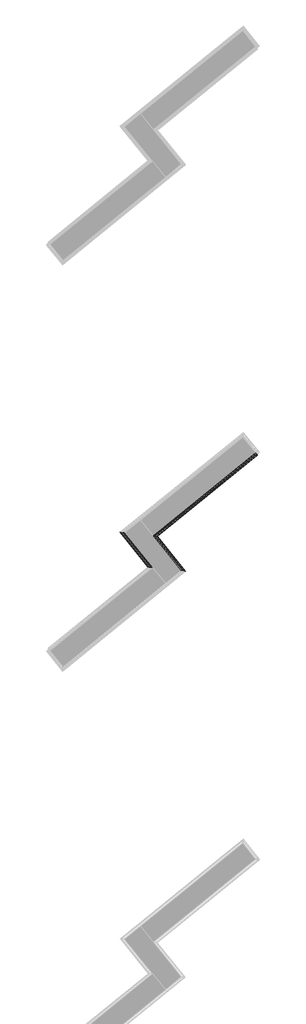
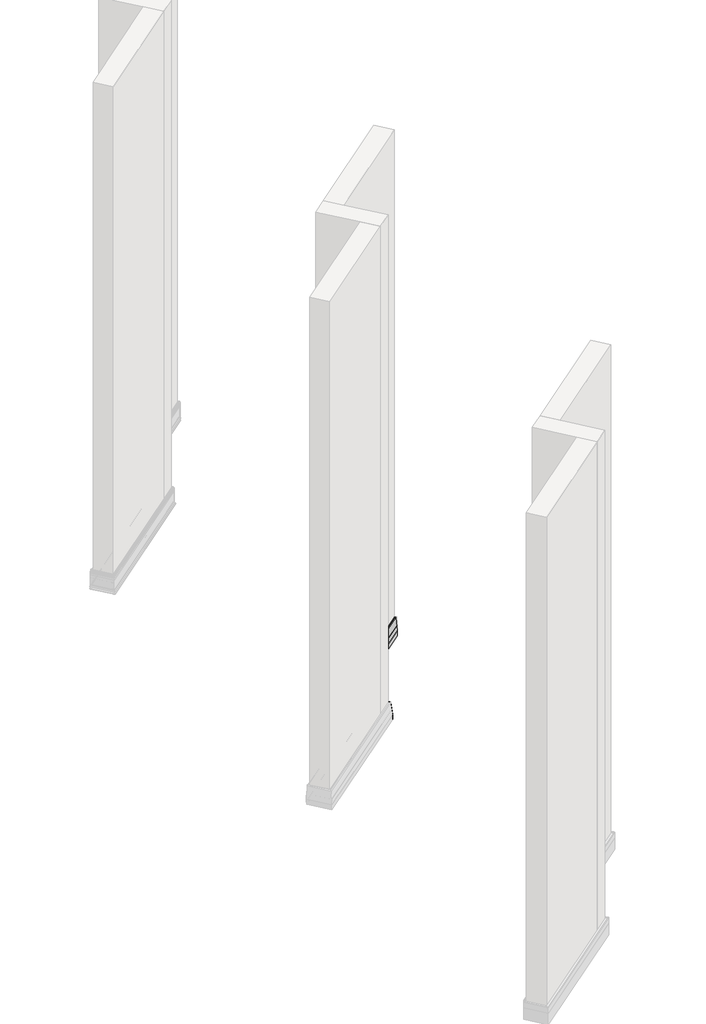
# One storey, part 15 of 21: 3 proxies.
"""IFC4 building model written with IfcOpenShell, lengths in millimetres."""

from ifc_helpers import new_model, si_unit, point, frame, frame_2d, origin, place, context, project, spatial, polyline, circle_curve, ellipse_curve, trimmed, segment, composite_curve, outline, extrude, element, save
from ifc_brep_helpers import plane_surface, cylinder_surface, revolved_surface, advanced_brep

model = new_model("IFC4")

# Units and contexts
model_context = context("Model", 3, world=origin())
ifc_project = project(units=[si_unit("LENGTHUNIT", "METRE", prefix="MILLI")], contexts=[model_context])

# Site, building, storey
site = spatial("IfcSite", under=ifc_project)
building = spatial("IfcBuilding", under=site)
storey = spatial("IfcBuildingStorey", under=building, Name="Izofleks 2D View", Elevation=0.0)

# Proxies
placement = place(None, origin())
element("IfcBuildingElementProxy", 1, Name="Wall Sweeps", at=placement, inside=storey, context=model_context, shape_type="SweptSolid", body=[
    extrude(outline(composite_curve([segment(polyline([(7.7852639, -164.7374532), (5.0964862, -164.7374532)]), True, "CONTINUOUS"), segment(trimmed(circle_curve(frame_2d((5.1124676, -163.5493822)), 1.1881785), [point((5.0964862, -164.7374532))], [point((4.2126251, -164.325302))], False, "CARTESIAN"), True, "CONTINUOUS"), segment(polyline([(4.2126251, -164.325302), (2.301783, -154.0316366)]), True, "CONTINUOUS"), segment(trimmed(circle_curve(frame_2d((2.7941472, -153.9445532)), 0.500006), [point((2.301783, -154.0316366))], [point((2.7965967, -153.4445532))], False, "CARTESIAN"), True, "CONTINUOUS"), segment(polyline([(2.7965967, -153.4445532), (3.6164397, -153.4445532), (4.2917659, -152.9716847), (1.29999, -152.9716847), (1.29999, -159.0818847)]), True, "CONTINUOUS"), segment(trimmed(circle_curve(frame_2d((0.2491905, -159.0608429)), 1.0510102), [point((1.29999, -159.0818847))], [point((0.0, -160.0818847))], False, "CARTESIAN"), True, "CONTINUOUS"), segment(polyline([(0.0, -160.0818847), (0.0, -105.0818947), (1.29999, -105.0818947), (1.29999, -122.0818847), (6.2996999, -122.0818847)]), True, "CONTINUOUS"), segment(trimmed(circle_curve(frame_2d((6.1786476, -122.7318897)), 0.6611809), [point((6.2996999, -122.0818847))], [point((6.2953783, -123.3826847))], False, "CARTESIAN"), True, "CONTINUOUS"), segment(polyline([(6.2953783, -123.3826847), (4.6572599, -123.3826847), (6.6113208, -132.22188)]), True, "CONTINUOUS"), segment(trimmed(circle_curve(frame_2d((6.1231073, -132.3298082)), 0.500001), [point((6.6113208, -132.22188))], [point((6.1241073, -132.8298082))], False, "CARTESIAN"), True, "CONTINUOUS"), segment(polyline([(6.1241073, -132.8298082), (5.1547151, -132.8298082), (5.3463779, -133.8476485), (14.6476603, -133.8476485), (14.6476603, -109.5732815), (11.6316133, -109.5732815), (11.6316133, -105.2732815), (12.9316133, -105.2732815), (12.9316133, -108.2732815), (15.929235, -108.2732815), (15.929235, -136.6002478)]), True, "CONTINUOUS"), segment(trimmed(circle_curve(frame_2d((-323.5544819, -136.7860962)), 339.4837679), [point((15.929235, -136.6002478))], [point((8.6021535, -206.9373483))], False, "CARTESIAN"), True, "CONTINUOUS"), segment(trimmed(circle_curve(frame_2d((4.7411505, -206.106502)), 3.949386), [point((8.6021535, -206.9373483))], [point((5.0902419, -210.0404295))], False, "CARTESIAN"), True, "CONTINUOUS"), segment(polyline([(5.0902419, -210.0404295), (1.9316133, -210.0404295), (1.9316133, -208.0405066), (-0.0683867, -208.0405066), (-0.0683867, -206.7405066), (3.2316133, -206.7405066), (3.2316133, -208.7407399), (4.960022, -208.7407399)]), True, "CONTINUOUS"), segment(trimmed(circle_curve(frame_2d((5.0109276, -206.4118222)), 2.329474), [point((4.960022, -208.7407399))], [point((7.2444894, -207.0733738))], True, "CARTESIAN"), True, "CONTINUOUS"), segment(trimmed(circle_curve(frame_2d((-323.5544819, -136.7860962)), 338.1837679), [point((7.2444894, -207.0733738))], [point((13.4721972, -164.7374532))], True, "CARTESIAN"), True, "CONTINUOUS"), segment(polyline([(13.4721972, -164.7374532), (7.7852639, -164.7374532)]), True, "CONTINUOUS")], self_intersect=False)), frame((10088.0380278, -5173.6542987, -105.0818947), z_axis=(0.7771459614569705, 0.6293203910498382, 0.0), x_axis=(0.6293203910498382, -0.7771459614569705, 0.0)), (0.0, 0.0, 1.0), 650.0),
])
element("IfcBuildingElementProxy", 2, Name="Wall Sweeps", at=placement, inside=storey, context=model_context, shape_type="AdvancedBrep", body=[
    advanced_brep(
    [(10098.9877396, -5174.8051598, 59.6555585), (10106.98622, -5175.645834, 59.6555585), (10098.2271584, -5174.7252195, 101.9914791), (10095.0141318, -5174.3875168, 103.6588452), (10092.5831831, -5174.1320138, 103.6588452), (10092.5831831, -5174.1320138, 101.6586119), (10087.9418442, -5173.6441894, 101.6586119), (10087.9418442, -5173.6441894, 102.9586119), (10090.7547769, -5173.9398405, 102.9586119), (10090.7547769, -5173.9398405, 104.9585348), (10095.1972818, -5174.4067666, 104.9585348), (10100.1366673, -5174.925917, 101.8554536), (10110.441961, -5176.009047, 31.5183531), (10110.441961, -5176.009047, 3.1913868), (10106.2259067, -5175.5659218, 3.1913868), (10106.2259067, -5175.5659218, 0.1913868), (10104.3975005, -5175.3737486, 0.1913868), (10104.3975005, -5175.3737486, 4.4913868), (10108.6394691, -5175.8195974, 4.4913868), (10108.6394691, -5175.8195974, 28.7657538), (10095.5575285, -5174.4446301, 28.7657538), (10095.2879611, -5174.4162974, 27.7479135), (10096.6513787, -5174.5595984, 27.7479135), (10097.3366282, -5174.631621, 27.1399853), (10094.5883072, -5174.3427608, 18.30079), (10096.8922655, -5174.5849166, 18.30079), (10096.8983438, -5174.5855554, 16.99999), (10089.8664199, -5173.8464705, 16.99999), (10089.8664199, -5173.8464705, 0.0), (10088.0380278, -5173.6542987, 0.0), (10088.0380278, -5173.6542987, 54.99999), (10089.8664199, -5173.8464705, 53.99999), (10089.8664199, -5173.8464705, 47.88979), (10094.0742521, -5174.2887314, 47.88979), (10093.1244286, -5174.188901, 48.3626585), (10091.971347, -5174.0677072, 48.3626585), (10091.2754082, -5173.9945611, 48.9497419), (10093.9629433, -5174.2770324, 59.2434073), (10095.2060641, -5174.4076897, 59.6555585), (10237.4382256, -5345.7772713, 59.6555585), (10233.6565501, -5345.3798012, 59.6555585), (10232.4134293, -5345.2491439, 59.2434073), (10229.7258942, -5344.9666726, 48.9497419), (10230.421833, -5345.0398187, 48.3626585), (10231.5749146, -5345.1610125, 48.3626585), (10232.5247381, -5345.260843, 47.88979), (10228.316906, -5344.818582, 47.88979), (10228.316906, -5344.818582, 53.99999), (10226.4885138, -5344.6264102, 54.99999), (10226.4885138, -5344.6264102, 0.0), (10228.316906, -5344.818582, 0.0), (10228.316906, -5344.818582, 16.99999), (10235.3488299, -5345.557667, 16.99999), (10235.3427515, -5345.5570281, 18.30079), (10233.0387933, -5345.3148723, 18.30079), (10235.7871142, -5345.6037325, 27.1399853), (10235.1018647, -5345.5317099, 27.7479135), (10233.7384472, -5345.3884089, 27.7479135), (10234.0080145, -5345.4167416, 28.7657538), (10247.0899552, -5346.791709, 28.7657538), (10247.0899552, -5346.791709, 4.4913868), (10242.8479865, -5346.3458601, 4.4913868), (10242.8479865, -5346.3458601, 0.1913868), (10244.6763928, -5346.5380333, 0.1913868), (10244.6763928, -5346.5380333, 3.1913868), (10248.892447, -5346.9811585, 3.1913868), (10248.892447, -5346.9811585, 31.5183531), (10238.5871533, -5345.8980285, 101.8554536), (10233.6477678, -5345.3788781, 104.9585348), (10229.2052629, -5344.9119521, 104.9585348), (10229.2052629, -5344.9119521, 102.9586119), (10226.3923302, -5344.6163009, 102.9586119), (10226.3923302, -5344.6163009, 101.6586119), (10231.0336692, -5345.1041253, 101.6586119), (10231.0336692, -5345.1041253, 103.6588452), (10233.4646178, -5345.3596283, 103.6588452), (10236.6776445, -5345.697331, 101.9914791), (10245.436706, -5346.6179455, 59.6555585)],
    [
        (0, 1),
        (1, 2, ellipse_curve(frame((9632.9695358, -5125.8246729, 31.7042015), z_axis=(-0.10452846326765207, -0.9945218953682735, 0.0), x_axis=(0.9945218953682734, -0.10452846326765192, 0.0)), 478.2640711, 338.1837679)),
        (2, 3, ellipse_curve(frame((10095.0857289, -5174.3950419, 101.3299275), z_axis=(-0.10452846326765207, -0.9945218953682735, 0.0), x_axis=(0.9945218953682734, -0.10452846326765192, 0.0)), 3.2943737, 2.329474)),
        (3, 4),
        (4, 5),
        (5, 6),
        (6, 7),
        (7, 8),
        (8, 9),
        (9, 10),
        (10, 11, ellipse_curve(frame((10094.7062964, -5174.355162, 101.0246073), z_axis=(0.10452846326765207, 0.9945218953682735, 0.0), x_axis=(-0.9945218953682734, 0.10452846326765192, 0.0)), 5.5852753, 3.949386)),
        (11, 12, ellipse_curve(frame((9632.9695358, -5125.8246729, 31.7042015), z_axis=(0.10452846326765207, 0.9945218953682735, 0.0), x_axis=(-0.9945218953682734, 0.10452846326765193, 0.0)), 480.1025487, 339.4837679)),
        (12, 13),
        (13, 14),
        (14, 15),
        (15, 16),
        (16, 17),
        (17, 18),
        (18, 19),
        (19, 20),
        (20, 21),
        (21, 22),
        (22, 23, ellipse_curve(frame((10096.6499722, -5174.5594505, 27.2479135), z_axis=(0.10452846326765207, 0.9945218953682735, 0.0), x_axis=(-0.9945218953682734, 0.10452846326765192, 0.0)), 0.7071082, 0.500001)),
        (23, 24),
        (24, 25),
        (25, 26, ellipse_curve(frame((10096.7280877, -5174.5676608, 17.649995), z_axis=(0.10452846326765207, 0.9945218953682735, 0.0), x_axis=(-0.9945218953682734, 0.10452846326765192, 0.0)), 0.935051, 0.6611809)),
        (26, 27),
        (27, 28),
        (28, 29),
        (29, 30),
        (30, 31, ellipse_curve(frame((10088.3885058, -5173.6911354, 53.9789482), z_axis=(0.10452846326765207, 0.9945218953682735, 0.0), x_axis=(-0.9945218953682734, 0.10452846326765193, 0.0)), 1.4863528, 1.0510102)),
        (31, 32),
        (32, 33),
        (33, 34),
        (34, 35),
        (35, 36, ellipse_curve(frame((10091.9679018, -5174.0673451, 48.8626585), z_axis=(0.10452846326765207, 0.9945218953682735, 0.0), x_axis=(-0.9945218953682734, 0.10452846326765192, 0.0)), 0.7071153, 0.500006)),
        (36, 37),
        (37, 38, ellipse_curve(frame((10095.2285415, -5174.4100521, 58.4674875), z_axis=(0.10452846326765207, 0.9945218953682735, 0.0), x_axis=(-0.9945218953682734, 0.10452846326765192, 0.0)), 1.6803381, 1.1881785)),
        (38, 0),
        (39, 40),
        (40, 41, ellipse_curve(frame((10233.6790275, -5345.3821637, 58.4674875), z_axis=(-0.10452846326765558, -0.9945218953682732, 0.0), x_axis=(-0.9945218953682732, 0.10452846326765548, 0.0)), 1.6803381, 1.1881785)),
        (41, 42),
        (42, 43, ellipse_curve(frame((10230.4183879, -5345.0394566, 48.8626585), z_axis=(-0.10452846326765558, -0.9945218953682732, 0.0), x_axis=(-0.9945218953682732, 0.10452846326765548, 0.0)), 0.7071153, 0.500006)),
        (43, 44),
        (44, 45),
        (45, 46),
        (46, 47),
        (47, 48, ellipse_curve(frame((10226.8389918, -5344.663247, 53.9789482), z_axis=(-0.10452846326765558, -0.9945218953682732, 0.0), x_axis=(-0.9945218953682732, 0.1045284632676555, 0.0)), 1.4863528, 1.0510102)),
        (48, 49),
        (49, 50),
        (50, 51),
        (51, 52),
        (52, 53, ellipse_curve(frame((10235.1785737, -5345.5397723, 17.649995), z_axis=(-0.10452846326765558, -0.9945218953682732, 0.0), x_axis=(-0.9945218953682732, 0.10452846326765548, 0.0)), 0.935051, 0.6611809)),
        (53, 54),
        (54, 55),
        (55, 56, ellipse_curve(frame((10235.1004582, -5345.5315621, 27.2479135), z_axis=(-0.10452846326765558, -0.9945218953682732, 0.0), x_axis=(-0.9945218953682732, 0.10452846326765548, 0.0)), 0.7071082, 0.500001)),
        (56, 57),
        (57, 58),
        (58, 59),
        (59, 60),
        (60, 61),
        (61, 62),
        (62, 63),
        (63, 64),
        (64, 65),
        (65, 66),
        (66, 67, ellipse_curve(frame((9771.4200218, -5296.7967844, 31.7042015), z_axis=(-0.10452846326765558, -0.9945218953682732, 0.0), x_axis=(-0.9945218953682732, 0.1045284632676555, 0.0)), 480.1025487, 339.4837679)),
        (67, 68, ellipse_curve(frame((10233.1567825, -5345.3272735, 101.0246073), z_axis=(-0.10452846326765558, -0.9945218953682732, 0.0), x_axis=(-0.9945218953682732, 0.10452846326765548, 0.0)), 5.5852753, 3.949386)),
        (68, 69),
        (69, 70),
        (70, 71),
        (71, 72),
        (72, 73),
        (73, 74),
        (74, 75),
        (75, 76, ellipse_curve(frame((10233.5362149, -5345.3671535, 101.3299275), z_axis=(0.10452846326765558, 0.9945218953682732, 0.0), x_axis=(0.9945218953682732, -0.10452846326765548, 0.0)), 3.2943737, 2.329474)),
        (76, 77, ellipse_curve(frame((9771.4200218, -5296.7967844, 31.7042015), z_axis=(0.10452846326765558, 0.9945218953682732, 0.0), x_axis=(0.9945218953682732, -0.10452846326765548, 0.0)), 478.2640711, 338.1837679)),
        (77, 39),
        (0, 39),
        (77, 1),
        (76, 2),
        (75, 3),
        (74, 4),
        (73, 5),
        (72, 6),
        (71, 7),
        (70, 8),
        (69, 9),
        (68, 10),
        (67, 11),
        (66, 12),
        (65, 13),
        (64, 14),
        (63, 15),
        (62, 16),
        (61, 17),
        (60, 18),
        (59, 19),
        (58, 20),
        (57, 21),
        (56, 22),
        (55, 23),
        (54, 24),
        (53, 25),
        (52, 26),
        (51, 27),
        (50, 28),
        (49, 29),
        (48, 30),
        (47, 31),
        (46, 32),
        (45, 33),
        (44, 34),
        (43, 35),
        (42, 36),
        (41, 37),
        (40, 38),
    ],
    [
        plane_surface(frame((10088.0380278, -5173.6542987, -304.8), z_axis=(0.10452846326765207, 0.9945218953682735, 0.0), x_axis=(0.9945218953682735, -0.10452846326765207, 0.0))),
        plane_surface(frame((10226.4885138, -5344.6264102, 304.8), z_axis=(-0.10452846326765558, -0.9945218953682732, 0.0), x_axis=(-0.9945218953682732, 0.10452846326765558, 0.0))),
        plane_surface(frame((10098.9877396, -5174.8051598, 59.6555585), z_axis=(0.0, 0.0, 1.0), x_axis=(0.6293203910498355, -0.7771459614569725, 0.0))),
        revolved_surface(polyline([(10246.164885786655, -5347.517172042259, 59.65555380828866), (9682.062517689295, -4650.908761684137, 59.65555380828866)]), (9836.5889688, -5377.2737318, 31.7042015), (0.6293203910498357, -0.777145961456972, 0.0)),
        revolved_surface(polyline([(10236.738003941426, -5345.771868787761, 101.9914791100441), (10095.355546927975, -5171.179074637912, 101.9914791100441)]), (10091.9322499, -5170.5008198, 101.3299275), (0.629320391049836, -0.7771459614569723, 0.0)),
        plane_surface(frame((10095.0141318, -5174.3875168, 103.6588452), z_axis=(0.0, 0.0, -1.0), x_axis=(0.6293203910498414, -0.7771459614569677, 0.0))),
        plane_surface(frame((10092.5831831, -5174.1320138, 103.6588452), z_axis=(0.7771459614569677, 0.6293203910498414, 0.0), x_axis=(0.6293203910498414, -0.7771459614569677, 0.0))),
        plane_surface(frame((10092.5831831, -5174.1320138, 101.6586119), z_axis=(0.0, 0.0, -1.0), x_axis=(0.6293203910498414, -0.7771459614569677, 0.0))),
        plane_surface(frame((10087.9418442, -5173.6441894, 101.6586119), z_axis=(-0.7771459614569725, -0.6293203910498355, 0.0), x_axis=(0.6293203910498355, -0.7771459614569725, 0.0))),
        plane_surface(frame((10087.9418442, -5173.6441894, 102.9586119), z_axis=(0.0, 0.0, 1.0), x_axis=(0.6293203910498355, -0.7771459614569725, 0.0))),
        plane_surface(frame((10090.7547769, -5173.9398405, 102.9586119), z_axis=(-0.7771459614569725, -0.6293203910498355, 0.0), x_axis=(0.6293203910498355, -0.7771459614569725, 0.0))),
        plane_surface(frame((10090.7547769, -5173.9398405, 104.9585348), z_axis=(0.0, 0.0, 1.0), x_axis=(0.6293203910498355, -0.7771459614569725, 0.0))),
        cylinder_surface(frame((10091.7225937, -5170.670596, 101.0246073), z_axis=(-0.6293203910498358, 0.7771459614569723, 0.0), x_axis=(0.06869295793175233, 0.055626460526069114, 0.9960858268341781)), 3.949386),
        cylinder_surface(frame((9836.5889688, -5377.2737318, 31.7042015), z_axis=(-0.6293203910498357, 0.7771459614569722, 0.0), x_axis=(0.7603726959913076, 0.6157376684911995, 0.20664096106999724)), 339.4837679),
        plane_surface(frame((10110.441961, -5176.009047, 31.5183531), z_axis=(0.7771459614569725, 0.6293203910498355, 0.0), x_axis=(0.6293203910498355, -0.7771459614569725, 0.0))),
        plane_surface(frame((10110.441961, -5176.009047, 3.1913868), z_axis=(0.0, 0.0, -1.0), x_axis=(0.6293203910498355, -0.7771459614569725, 0.0))),
        plane_surface(frame((10106.2259067, -5175.5659218, 3.1913868), z_axis=(0.7771459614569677, 0.6293203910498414, 0.0), x_axis=(0.6293203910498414, -0.7771459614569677, 0.0))),
        plane_surface(frame((10106.2259067, -5175.5659218, 0.1913868), z_axis=(0.0, 0.0, -1.0), x_axis=(0.6293203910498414, -0.7771459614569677, 0.0))),
        plane_surface(frame((10104.3975005, -5175.3737486, 0.1913868), z_axis=(-0.7771459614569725, -0.6293203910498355, 0.0), x_axis=(0.6293203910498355, -0.7771459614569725, 0.0))),
        plane_surface(frame((10104.3975005, -5175.3737486, 4.4913868), z_axis=(0.0, 0.0, 1.0), x_axis=(0.6293203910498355, -0.7771459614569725, 0.0))),
        plane_surface(frame((10108.6394691, -5175.8195974, 4.4913868), z_axis=(-0.7771459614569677, -0.6293203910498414, 0.0), x_axis=(0.6293203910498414, -0.7771459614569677, 0.0))),
        plane_surface(frame((10108.6394691, -5175.8195974, 28.7657538), z_axis=(0.0, 0.0, -1.0), x_axis=(0.6293203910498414, -0.7771459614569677, 0.0))),
        plane_surface(frame((10095.5575285, -5174.4446301, 28.7657538), z_axis=(0.7637237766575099, 0.6184513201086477, -0.1850512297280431), x_axis=(0.6293203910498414, -0.7771459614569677, 0.0))),
        plane_surface(frame((10095.2879611, -5174.4162974, 27.7479135), z_axis=(0.0, 0.0, 1.0), x_axis=(0.6293203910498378, -0.7771459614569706, 0.0))),
        cylinder_surface(frame((10092.7965759, -5169.8009024, 27.2479135), z_axis=(-0.6293203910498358, 0.7771459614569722, 0.0), x_axis=(0.0015542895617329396, 0.0012586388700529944, 0.9999980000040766)), 0.500001),
        plane_surface(frame((10097.3366282, -5174.631621, 27.1399853), z_axis=(0.7588248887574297, 0.6144842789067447, -0.2158561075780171), x_axis=(0.6293203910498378, -0.7771459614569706, 0.0))),
        plane_surface(frame((10094.5883072, -5174.3427608, 18.30079), z_axis=(0.0, 0.0, 1.0), x_axis=(0.6293203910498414, -0.7771459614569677, 0.0))),
        cylinder_surface(frame((10092.8397388, -5169.7659498, 17.649995), z_axis=(-0.6293203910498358, 0.7771459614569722, 0.0), x_axis=(0.1422838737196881, 0.11521920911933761, 0.9830970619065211)), 0.6611809),
        plane_surface(frame((10096.8983438, -5174.5855554, 16.99999), z_axis=(0.0, 0.0, -1.0), x_axis=(0.6293203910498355, -0.7771459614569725, 0.0))),
        plane_surface(frame((10089.8664199, -5173.8464705, 16.99999), z_axis=(0.7771459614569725, 0.6293203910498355, 0.0), x_axis=(0.6293203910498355, -0.7771459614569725, 0.0))),
        plane_surface(frame((10089.8664199, -5173.8464705, 0.0), z_axis=(0.0, 0.0, -1.0), x_axis=(0.6293203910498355, -0.7771459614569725, 0.0))),
        plane_surface(frame((10088.0380278, -5173.6542987, 0.0), z_axis=(-0.7771459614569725, -0.6293203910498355, 0.0), x_axis=(0.6293203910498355, -0.7771459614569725, 0.0))),
        cylinder_surface(frame((10088.2316851, -5173.497478, 53.9789482), z_axis=(-0.6293203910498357, 0.7771459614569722, 0.0), x_axis=(-0.18425834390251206, -0.14920946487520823, 0.9714861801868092)), 1.0510102),
        plane_surface(frame((10089.8664199, -5173.8464705, 53.99999), z_axis=(0.7771459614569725, 0.6293203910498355, 0.0), x_axis=(0.6293203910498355, -0.7771459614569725, 0.0))),
        plane_surface(frame((10089.8664199, -5173.8464705, 47.88979), z_axis=(0.0, 0.0, 1.0), x_axis=(0.6293203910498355, -0.7771459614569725, 0.0))),
        plane_surface(frame((10094.0742521, -5174.2887314, 47.88979), z_axis=(-0.4457526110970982, -0.36096334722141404, -0.8191520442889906), x_axis=(0.6293203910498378, -0.7771459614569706, 0.0))),
        plane_surface(frame((10093.1244286, -5174.188901, 48.3626585), z_axis=(0.0, 0.0, -1.0), x_axis=(0.6293203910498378, -0.7771459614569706, 0.0))),
        cylinder_surface(frame((10090.209488, -5171.8958849, 48.8626585), z_axis=(-0.629320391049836, 0.7771459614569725, 0.0), x_axis=(0.003807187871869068, 0.003082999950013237, -0.9999880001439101)), 0.500006),
        plane_surface(frame((10091.2754082, -5173.9945611, 48.9497419), z_axis=(-0.7640923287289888, -0.6187497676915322, 0.1825147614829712), x_axis=(0.6293203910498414, -0.7771459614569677, 0.0))),
        cylinder_surface(frame((10092.0111613, -5170.4369186, 58.4674875), z_axis=(-0.6293203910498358, 0.7771459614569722, 0.0), x_axis=(0.7771459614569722, 0.6293203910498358, 0.0)), 1.1881785),
        plane_surface(frame((10095.2060641, -5174.4076897, 59.6555585), z_axis=(0.0, 0.0, 1.0), x_axis=(0.6293203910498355, -0.7771459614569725, 0.0))),
    ],
    [
        (0, [[1, 2, 3, 4, 5, 6, 7, 8, 9, 10, 11, 12, 13, 14, 15, 16, 17, 18, 19, 20, 21, 22, 23, 24, 25, 26, 27, 28, 29, 30, 31, 32, 33, 34, 35, 36, 37, 38, 39]]),
        (1, [[40, 41, 42, 43, 44, 45, 46, 47, 48, 49, 50, 51, 52, 53, 54, 55, 56, 57, 58, 59, 60, 61, 62, 63, 64, 65, 66, 67, 68, 69, 70, 71, 72, 73, 74, 75, 76, 77, 78]]),
        (2, [[-1, 79, -78, 80]]),
        (3, [[-2, -80, -77, 81]]),
        (4, [[-3, -81, -76, 82]]),
        (5, [[-4, -82, -75, 83]]),
        (6, [[-5, -83, -74, 84]]),
        (7, [[-6, -84, -73, 85]]),
        (8, [[-7, -85, -72, 86]]),
        (9, [[-8, -86, -71, 87]]),
        (10, [[-9, -87, -70, 88]]),
        (11, [[-10, -88, -69, 89]]),
        (12, [[-11, -89, -68, 90]]),
        (13, [[-12, -90, -67, 91]]),
        (14, [[-13, -91, -66, 92]]),
        (15, [[-14, -92, -65, 93]]),
        (16, [[-15, -93, -64, 94]]),
        (17, [[-16, -94, -63, 95]]),
        (18, [[-17, -95, -62, 96]]),
        (19, [[-18, -96, -61, 97]]),
        (20, [[-19, -97, -60, 98]]),
        (21, [[-20, -98, -59, 99]]),
        (22, [[-21, -99, -58, 100]]),
        (23, [[-22, -100, -57, 101]]),
        (24, [[-23, -101, -56, 102]]),
        (25, [[-24, -102, -55, 103]]),
        (26, [[-25, -103, -54, 104]]),
        (27, [[-26, -104, -53, 105]]),
        (28, [[-27, -105, -52, 106]]),
        (29, [[-28, -106, -51, 107]]),
        (30, [[-29, -107, -50, 108]]),
        (31, [[-30, -108, -49, 109]]),
        (32, [[-31, -109, -48, 110]]),
        (33, [[-32, -110, -47, 111]]),
        (34, [[-33, -111, -46, 112]]),
        (35, [[-34, -112, -45, 113]]),
        (36, [[-35, -113, -44, 114]]),
        (37, [[-36, -114, -43, 115]]),
        (38, [[-37, -115, -42, 116]]),
        (39, [[-38, -116, -41, 117]]),
        (40, [[-39, -117, -40, -79]]),
    ],
),
])
element("IfcBuildingElementProxy", 3, Name="Wall Sweeps", at=placement, inside=storey, context=model_context, shape_type="AdvancedBrep", body=[
    advanced_brep(
    [(9936.4416807, -5157.7208806, 59.6555585), (9940.2233562, -5158.1183507, 59.6555585), (9941.466477, -5158.2490079, 59.2434073), (9944.1540121, -5158.5314793, 48.9497419), (9943.4580733, -5158.4583332, 48.3626585), (9942.3049916, -5158.3371394, 48.3626585), (9941.3551682, -5158.2373089, 47.88979), (9945.5630003, -5158.6795699, 47.88979), (9945.5630003, -5158.6795699, 53.99999), (9947.3913925, -5158.8717417, 54.99999), (9947.3913925, -5158.8717417, 0.0), (9945.5630003, -5158.6795699, 0.0), (9945.5630003, -5158.6795699, 16.99999), (9938.5310764, -5157.9404849, 16.99999), (9938.5371548, -5157.9411238, 18.30079), (9940.841113, -5158.1832795, 18.30079), (9938.0927921, -5157.8944194, 27.1399853), (9938.7780416, -5157.966442, 27.7479135), (9940.1414591, -5158.109743, 27.7479135), (9939.8718918, -5158.0814103, 28.7657538), (9926.7899511, -5156.7064429, 28.7657538), (9926.7899511, -5156.7064429, 4.4913868), (9931.0319198, -5157.1522918, 4.4913868), (9931.0319198, -5157.1522918, 0.1913868), (9929.2035135, -5156.9601185, 0.1913868), (9929.2035135, -5156.9601185, 3.1913868), (9924.9874593, -5156.5169934, 3.1913868), (9924.9874593, -5156.5169934, 31.5183531), (9935.2927529, -5157.6001234, 101.8554536), (9940.2321385, -5158.1192737, 104.9585348), (9944.6746434, -5158.5861998, 104.9585348), (9944.6746434, -5158.5861998, 102.9586119), (9947.4875761, -5158.881851, 102.9586119), (9947.4875761, -5158.881851, 101.6586119), (9942.8462371, -5158.3940266, 101.6586119), (9942.8462371, -5158.3940266, 103.6588452), (9940.4152885, -5158.1385236, 103.6588452), (9937.2022618, -5157.8008209, 101.9914791), (9928.4432003, -5156.8802064, 59.6555585), (10074.8921667, -5328.6929921, 59.6555585), (10066.8936863, -5327.8523179, 59.6555585), (10075.6527478, -5328.7729324, 101.9914791), (10078.8657745, -5329.1106351, 103.6588452), (10081.2967232, -5329.3661381, 103.6588452), (10081.2967232, -5329.3661381, 101.6586119), (10085.9380621, -5329.8539625, 101.6586119), (10085.9380621, -5329.8539625, 102.9586119), (10083.1251294, -5329.5583113, 102.9586119), (10083.1251294, -5329.5583113, 104.9585348), (10078.6826245, -5329.0913853, 104.9585348), (10073.743239, -5328.5722349, 101.8554536), (10063.4379453, -5327.4891049, 31.5183531), (10063.4379453, -5327.4891049, 3.1913868), (10067.6539995, -5327.9322301, 3.1913868), (10067.6539995, -5327.9322301, 0.1913868), (10069.4824058, -5328.1244033, 0.1913868), (10069.4824058, -5328.1244033, 4.4913868), (10065.2404372, -5327.6785544, 4.4913868), (10065.2404372, -5327.6785544, 28.7657538), (10078.3223778, -5329.0535218, 28.7657538), (10078.5919451, -5329.0818545, 27.7479135), (10077.2285276, -5328.9385535, 27.7479135), (10076.5432781, -5328.8665309, 27.1399853), (10079.291599, -5329.1553911, 18.30079), (10076.9876408, -5328.9132353, 18.30079), (10076.9815625, -5328.9125964, 16.99999), (10084.0134863, -5329.6516814, 16.99999), (10084.0134863, -5329.6516814, 0.0), (10085.8418785, -5329.8438532, 0.0), (10085.8418785, -5329.8438532, 54.99999), (10084.0134863, -5329.6516814, 53.99999), (10084.0134863, -5329.6516814, 47.88979), (10079.8056542, -5329.2094204, 47.88979), (10080.7554777, -5329.3092509, 48.3626585), (10081.9085593, -5329.4304447, 48.3626585), (10082.6044981, -5329.5035908, 48.9497419), (10079.916963, -5329.2211195, 59.2434073), (10078.6738422, -5329.0904622, 59.6555585)],
    [
        (0, 1),
        (1, 2, ellipse_curve(frame((9940.2008788, -5158.1159882, 58.4674875), z_axis=(0.10452846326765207, 0.9945218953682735, 0.0), x_axis=(-0.9945218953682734, 0.10452846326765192, 0.0)), 1.6803381, 1.1881785)),
        (2, 3),
        (3, 4, ellipse_curve(frame((9943.4615184, -5158.4586953, 48.8626585), z_axis=(0.10452846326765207, 0.9945218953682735, 0.0), x_axis=(-0.9945218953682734, 0.10452846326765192, 0.0)), 0.7071153, 0.500006)),
        (4, 5),
        (5, 6),
        (6, 7),
        (7, 8),
        (8, 9, ellipse_curve(frame((9947.0409144, -5158.8349049, 53.9789482), z_axis=(0.10452846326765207, 0.9945218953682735, 0.0), x_axis=(-0.9945218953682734, 0.10452846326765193, 0.0)), 1.4863528, 1.0510102)),
        (9, 10),
        (10, 11),
        (11, 12),
        (12, 13),
        (13, 14, ellipse_curve(frame((9938.7013325, -5157.9583796, 17.649995), z_axis=(0.10452846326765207, 0.9945218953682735, 0.0), x_axis=(-0.9945218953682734, 0.10452846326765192, 0.0)), 0.935051, 0.6611809)),
        (14, 15),
        (15, 16),
        (16, 17, ellipse_curve(frame((9938.7794481, -5157.9665898, 27.2479135), z_axis=(0.10452846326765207, 0.9945218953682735, 0.0), x_axis=(-0.9945218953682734, 0.10452846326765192, 0.0)), 0.7071082, 0.500001)),
        (17, 18),
        (18, 19),
        (19, 20),
        (20, 21),
        (21, 22),
        (22, 23),
        (23, 24),
        (24, 25),
        (25, 26),
        (26, 27),
        (27, 28, ellipse_curve(frame((10402.4598845, -5206.7013675, 31.7042015), z_axis=(0.10452846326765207, 0.9945218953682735, 0.0), x_axis=(-0.9945218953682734, 0.10452846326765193, 0.0)), 480.1025487, 339.4837679)),
        (28, 29, ellipse_curve(frame((9940.7231238, -5158.1708784, 101.0246073), z_axis=(0.10452846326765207, 0.9945218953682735, 0.0), x_axis=(-0.9945218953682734, 0.10452846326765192, 0.0)), 5.5852753, 3.949386)),
        (29, 30),
        (30, 31),
        (31, 32),
        (32, 33),
        (33, 34),
        (34, 35),
        (35, 36),
        (36, 37, ellipse_curve(frame((9940.3436914, -5158.1309984, 101.3299275), z_axis=(-0.10452846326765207, -0.9945218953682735, 0.0), x_axis=(0.9945218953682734, -0.10452846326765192, 0.0)), 3.2943737, 2.329474)),
        (37, 38, ellipse_curve(frame((10402.4598845, -5206.7013675, 31.7042015), z_axis=(-0.10452846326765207, -0.9945218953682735, 0.0), x_axis=(0.9945218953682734, -0.10452846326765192, 0.0)), 478.2640711, 338.1837679)),
        (38, 0),
        (39, 40),
        (40, 41, ellipse_curve(frame((10540.9103705, -5377.673479, 31.7042015), z_axis=(0.10452846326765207, 0.9945218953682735, 0.0), x_axis=(0.9945218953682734, -0.10452846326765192, 0.0)), 478.2640711, 338.1837679)),
        (41, 42, ellipse_curve(frame((10078.7941774, -5329.1031099, 101.3299275), z_axis=(0.10452846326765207, 0.9945218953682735, 0.0), x_axis=(0.9945218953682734, -0.10452846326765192, 0.0)), 3.2943737, 2.329474)),
        (42, 43),
        (43, 44),
        (44, 45),
        (45, 46),
        (46, 47),
        (47, 48),
        (48, 49),
        (49, 50, ellipse_curve(frame((10079.1736099, -5329.1429899, 101.0246073), z_axis=(-0.10452846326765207, -0.9945218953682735, 0.0), x_axis=(-0.9945218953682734, 0.10452846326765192, 0.0)), 5.5852753, 3.949386)),
        (50, 51, ellipse_curve(frame((10540.9103705, -5377.673479, 31.7042015), z_axis=(-0.10452846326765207, -0.9945218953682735, 0.0), x_axis=(-0.9945218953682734, 0.10452846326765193, 0.0)), 480.1025487, 339.4837679)),
        (51, 52),
        (52, 53),
        (53, 54),
        (54, 55),
        (55, 56),
        (56, 57),
        (57, 58),
        (58, 59),
        (59, 60),
        (60, 61),
        (61, 62, ellipse_curve(frame((10077.2299341, -5328.9387013, 27.2479135), z_axis=(-0.10452846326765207, -0.9945218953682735, 0.0), x_axis=(-0.9945218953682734, 0.10452846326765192, 0.0)), 0.7071082, 0.500001)),
        (62, 63),
        (63, 64),
        (64, 65, ellipse_curve(frame((10077.1518186, -5328.9304911, 17.649995), z_axis=(-0.10452846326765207, -0.9945218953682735, 0.0), x_axis=(-0.9945218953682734, 0.10452846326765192, 0.0)), 0.935051, 0.6611809)),
        (65, 66),
        (66, 67),
        (67, 68),
        (68, 69),
        (69, 70, ellipse_curve(frame((10085.4914005, -5329.8070165, 53.9789482), z_axis=(-0.10452846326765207, -0.9945218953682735, 0.0), x_axis=(-0.9945218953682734, 0.10452846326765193, 0.0)), 1.4863528, 1.0510102)),
        (70, 71),
        (71, 72),
        (72, 73),
        (73, 74),
        (74, 75, ellipse_curve(frame((10081.9120045, -5329.4308068, 48.8626585), z_axis=(-0.10452846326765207, -0.9945218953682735, 0.0), x_axis=(-0.9945218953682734, 0.10452846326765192, 0.0)), 0.7071153, 0.500006)),
        (75, 76),
        (76, 77, ellipse_curve(frame((10078.6513648, -5329.0880997, 58.4674875), z_axis=(-0.10452846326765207, -0.9945218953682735, 0.0), x_axis=(-0.9945218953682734, 0.10452846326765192, 0.0)), 1.6803381, 1.1881785)),
        (77, 39),
        (0, 39),
        (77, 1),
        (76, 2),
        (75, 3),
        (74, 4),
        (73, 5),
        (72, 6),
        (71, 7),
        (70, 8),
        (69, 9),
        (68, 10),
        (67, 11),
        (66, 12),
        (65, 13),
        (64, 14),
        (63, 15),
        (62, 16),
        (61, 17),
        (60, 18),
        (59, 19),
        (58, 20),
        (57, 21),
        (56, 22),
        (55, 23),
        (54, 24),
        (53, 25),
        (52, 26),
        (51, 27),
        (50, 28),
        (49, 29),
        (48, 30),
        (47, 31),
        (46, 32),
        (45, 33),
        (44, 34),
        (43, 35),
        (42, 36),
        (41, 37),
        (40, 38),
    ],
    [
        plane_surface(frame((9947.3913925, -5158.8717417, -304.8), z_axis=(0.10452846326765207, 0.9945218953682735, 0.0), x_axis=(0.9945218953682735, -0.10452846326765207, 0.0))),
        plane_surface(frame((10085.8418785, -5329.8438532, 304.8), z_axis=(-0.10452846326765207, -0.9945218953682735, 0.0), x_axis=(-0.9945218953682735, 0.10452846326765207, 0.0))),
        plane_surface(frame((9936.4416807, -5157.7208806, 59.6555585), z_axis=(0.0, 0.0, 1.0), x_axis=(0.6293203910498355, -0.7771459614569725, 0.0))),
        cylinder_surface(frame((9943.4182589, -5162.0891218, 58.4674875), z_axis=(-0.6293203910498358, 0.7771459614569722, 0.0), x_axis=(-0.7771459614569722, -0.6293203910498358, 0.0)), 1.1881785),
        plane_surface(frame((9941.466477, -5158.2490079, 59.2434073), z_axis=(0.7640923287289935, 0.6187497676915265, 0.18251476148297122), x_axis=(0.6293203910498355, -0.7771459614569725, 0.0))),
        cylinder_surface(frame((9945.2199323, -5160.6301555, 48.8626585), z_axis=(-0.629320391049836, 0.7771459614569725, 0.0), x_axis=(-0.003807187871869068, -0.003082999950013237, -0.9999880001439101)), 0.500006),
        plane_surface(frame((9943.4580733, -5158.4583332, 48.3626585), z_axis=(0.0, 0.0, -1.0), x_axis=(0.6293203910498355, -0.7771459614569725, 0.0))),
        plane_surface(frame((9942.3049916, -5158.3371394, 48.3626585), z_axis=(0.4457526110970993, 0.3609633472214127, -0.8191520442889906), x_axis=(0.6293203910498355, -0.7771459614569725, 0.0))),
        plane_surface(frame((9941.3551682, -5158.2373089, 47.88979), z_axis=(0.0, 0.0, 1.0), x_axis=(0.6293203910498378, -0.7771459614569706, 0.0))),
        plane_surface(frame((9945.5630003, -5158.6795699, 47.88979), z_axis=(-0.7771459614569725, -0.6293203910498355, 0.0), x_axis=(0.6293203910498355, -0.7771459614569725, 0.0))),
        cylinder_surface(frame((9947.1977351, -5159.0285623, 53.9789482), z_axis=(-0.6293203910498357, 0.7771459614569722, 0.0), x_axis=(0.18425834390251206, 0.14920946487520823, 0.9714861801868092)), 1.0510102),
        plane_surface(frame((9947.3913925, -5158.8717417, 54.99999), z_axis=(0.7771459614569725, 0.6293203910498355, 0.0), x_axis=(0.6293203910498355, -0.7771459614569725, 0.0))),
        plane_surface(frame((9947.3913925, -5158.8717417, 0.0), z_axis=(0.0, 0.0, -1.0), x_axis=(0.6293203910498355, -0.7771459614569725, 0.0))),
        plane_surface(frame((9945.5630003, -5158.6795699, 0.0), z_axis=(-0.7771459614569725, -0.6293203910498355, 0.0), x_axis=(0.6293203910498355, -0.7771459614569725, 0.0))),
        plane_surface(frame((9945.5630003, -5158.6795699, 16.99999), z_axis=(0.0, 0.0, -1.0), x_axis=(0.6293203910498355, -0.7771459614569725, 0.0))),
        cylinder_surface(frame((9942.5896815, -5162.7600906, 17.649995), z_axis=(-0.6293203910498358, 0.7771459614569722, 0.0), x_axis=(-0.1422838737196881, -0.11521920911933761, 0.9830970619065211)), 0.6611809),
        plane_surface(frame((9938.5371548, -5157.9411238, 18.30079), z_axis=(0.0, 0.0, 1.0), x_axis=(0.6293203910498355, -0.7771459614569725, 0.0))),
        plane_surface(frame((9940.841113, -5158.1832795, 18.30079), z_axis=(-0.7588248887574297, -0.6144842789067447, -0.2158561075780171), x_axis=(0.6293203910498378, -0.7771459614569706, 0.0))),
        cylinder_surface(frame((9942.6328444, -5162.725138, 27.2479135), z_axis=(-0.6293203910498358, 0.7771459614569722, 0.0), x_axis=(-0.0015542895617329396, -0.0012586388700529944, 0.9999980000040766)), 0.500001),
        plane_surface(frame((9938.7780416, -5157.966442, 27.7479135), z_axis=(0.0, 0.0, 1.0), x_axis=(0.6293203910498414, -0.7771459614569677, 0.0))),
        plane_surface(frame((9940.1414591, -5158.109743, 27.7479135), z_axis=(-0.7637237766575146, -0.6184513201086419, -0.1850512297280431), x_axis=(0.6293203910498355, -0.7771459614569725, 0.0))),
        plane_surface(frame((9939.8718918, -5158.0814103, 28.7657538), z_axis=(0.0, 0.0, -1.0), x_axis=(0.6293203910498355, -0.7771459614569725, 0.0))),
        plane_surface(frame((9926.7899511, -5156.7064429, 28.7657538), z_axis=(0.7771459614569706, 0.6293203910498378, 0.0), x_axis=(0.6293203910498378, -0.7771459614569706, 0.0))),
        plane_surface(frame((9926.7899511, -5156.7064429, 4.4913868), z_axis=(0.0, 0.0, 1.0), x_axis=(0.6293203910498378, -0.7771459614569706, 0.0))),
        plane_surface(frame((9931.0319198, -5157.1522918, 4.4913868), z_axis=(0.7771459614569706, 0.6293203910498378, 0.0), x_axis=(0.6293203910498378, -0.7771459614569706, 0.0))),
        plane_surface(frame((9931.0319198, -5157.1522918, 0.1913868), z_axis=(0.0, 0.0, -1.0), x_axis=(0.6293203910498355, -0.7771459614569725, 0.0))),
        plane_surface(frame((9929.2035135, -5156.9601185, 0.1913868), z_axis=(-0.7771459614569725, -0.6293203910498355, 0.0), x_axis=(0.6293203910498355, -0.7771459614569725, 0.0))),
        plane_surface(frame((9929.2035135, -5156.9601185, 3.1913868), z_axis=(0.0, 0.0, -1.0), x_axis=(0.6293203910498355, -0.7771459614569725, 0.0))),
        plane_surface(frame((9924.9874593, -5156.5169934, 3.1913868), z_axis=(-0.7771459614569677, -0.6293203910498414, 0.0), x_axis=(0.6293203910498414, -0.7771459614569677, 0.0))),
        cylinder_surface(frame((10198.8404514, -4955.2523086, 31.7042015), z_axis=(-0.6293203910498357, 0.7771459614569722, 0.0), x_axis=(-0.7603726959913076, -0.6157376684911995, 0.20664096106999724)), 339.4837679),
        cylinder_surface(frame((9943.7068265, -5161.8554444, 101.0246073), z_axis=(-0.6293203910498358, 0.7771459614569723, 0.0), x_axis=(-0.06869295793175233, -0.055626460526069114, 0.9960858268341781)), 3.949386),
        plane_surface(frame((9940.2321385, -5158.1192737, 104.9585348), z_axis=(0.0, 0.0, 1.0), x_axis=(0.6293203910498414, -0.7771459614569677, 0.0))),
        plane_surface(frame((9944.6746434, -5158.5861998, 104.9585348), z_axis=(0.7771459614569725, 0.6293203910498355, 0.0), x_axis=(0.6293203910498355, -0.7771459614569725, 0.0))),
        plane_surface(frame((9944.6746434, -5158.5861998, 102.9586119), z_axis=(0.0, 0.0, 1.0), x_axis=(0.6293203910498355, -0.7771459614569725, 0.0))),
        plane_surface(frame((9947.4875761, -5158.881851, 102.9586119), z_axis=(0.7771459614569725, 0.6293203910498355, 0.0), x_axis=(0.6293203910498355, -0.7771459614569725, 0.0))),
        plane_surface(frame((9947.4875761, -5158.881851, 101.6586119), z_axis=(0.0, 0.0, -1.0), x_axis=(0.6293203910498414, -0.7771459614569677, 0.0))),
        plane_surface(frame((9942.8462371, -5158.3940266, 101.6586119), z_axis=(-0.7771459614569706, -0.6293203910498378, 0.0), x_axis=(0.6293203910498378, -0.7771459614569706, 0.0))),
        plane_surface(frame((9942.8462371, -5158.3940266, 103.6588452), z_axis=(0.0, 0.0, -1.0), x_axis=(0.6293203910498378, -0.7771459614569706, 0.0))),
        revolved_surface(polyline([(10078.524359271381, -5332.319077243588, 101.9914791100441), (9937.141902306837, -5157.726283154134, 101.9914791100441)]), (9943.4971703, -5162.0252206, 101.3299275), (0.629320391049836, -0.7771459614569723, 0.0)),
        revolved_surface(polyline([(10491.817388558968, -5852.589390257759, 59.65555380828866), (9927.715020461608, -5155.980979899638, 59.65555380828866)]), (10198.8404514, -4955.2523086, 31.7042015), (0.6293203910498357, -0.777145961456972, 0.0)),
        plane_surface(frame((9928.4432003, -5156.8802064, 59.6555585), z_axis=(0.0, 0.0, 1.0), x_axis=(0.6293203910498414, -0.7771459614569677, 0.0))),
    ],
    [
        (0, [[1, 2, 3, 4, 5, 6, 7, 8, 9, 10, 11, 12, 13, 14, 15, 16, 17, 18, 19, 20, 21, 22, 23, 24, 25, 26, 27, 28, 29, 30, 31, 32, 33, 34, 35, 36, 37, 38, 39]]),
        (1, [[40, 41, 42, 43, 44, 45, 46, 47, 48, 49, 50, 51, 52, 53, 54, 55, 56, 57, 58, 59, 60, 61, 62, 63, 64, 65, 66, 67, 68, 69, 70, 71, 72, 73, 74, 75, 76, 77, 78]]),
        (2, [[-1, 79, -78, 80]]),
        (3, [[-2, -80, -77, 81]]),
        (4, [[-3, -81, -76, 82]]),
        (5, [[-4, -82, -75, 83]]),
        (6, [[-5, -83, -74, 84]]),
        (7, [[-6, -84, -73, 85]]),
        (8, [[-7, -85, -72, 86]]),
        (9, [[-8, -86, -71, 87]]),
        (10, [[-9, -87, -70, 88]]),
        (11, [[-10, -88, -69, 89]]),
        (12, [[-11, -89, -68, 90]]),
        (13, [[-12, -90, -67, 91]]),
        (14, [[-13, -91, -66, 92]]),
        (15, [[-14, -92, -65, 93]]),
        (16, [[-15, -93, -64, 94]]),
        (17, [[-16, -94, -63, 95]]),
        (18, [[-17, -95, -62, 96]]),
        (19, [[-18, -96, -61, 97]]),
        (20, [[-19, -97, -60, 98]]),
        (21, [[-20, -98, -59, 99]]),
        (22, [[-21, -99, -58, 100]]),
        (23, [[-22, -100, -57, 101]]),
        (24, [[-23, -101, -56, 102]]),
        (25, [[-24, -102, -55, 103]]),
        (26, [[-25, -103, -54, 104]]),
        (27, [[-26, -104, -53, 105]]),
        (28, [[-27, -105, -52, 106]]),
        (29, [[-28, -106, -51, 107]]),
        (30, [[-29, -107, -50, 108]]),
        (31, [[-30, -108, -49, 109]]),
        (32, [[-31, -109, -48, 110]]),
        (33, [[-32, -110, -47, 111]]),
        (34, [[-33, -111, -46, 112]]),
        (35, [[-34, -112, -45, 113]]),
        (36, [[-35, -113, -44, 114]]),
        (37, [[-36, -114, -43, 115]]),
        (38, [[-37, -115, -42, 116]]),
        (39, [[-38, -116, -41, 117]]),
        (40, [[-39, -117, -40, -79]]),
    ],
),
])

save(model, "model.ifc")
